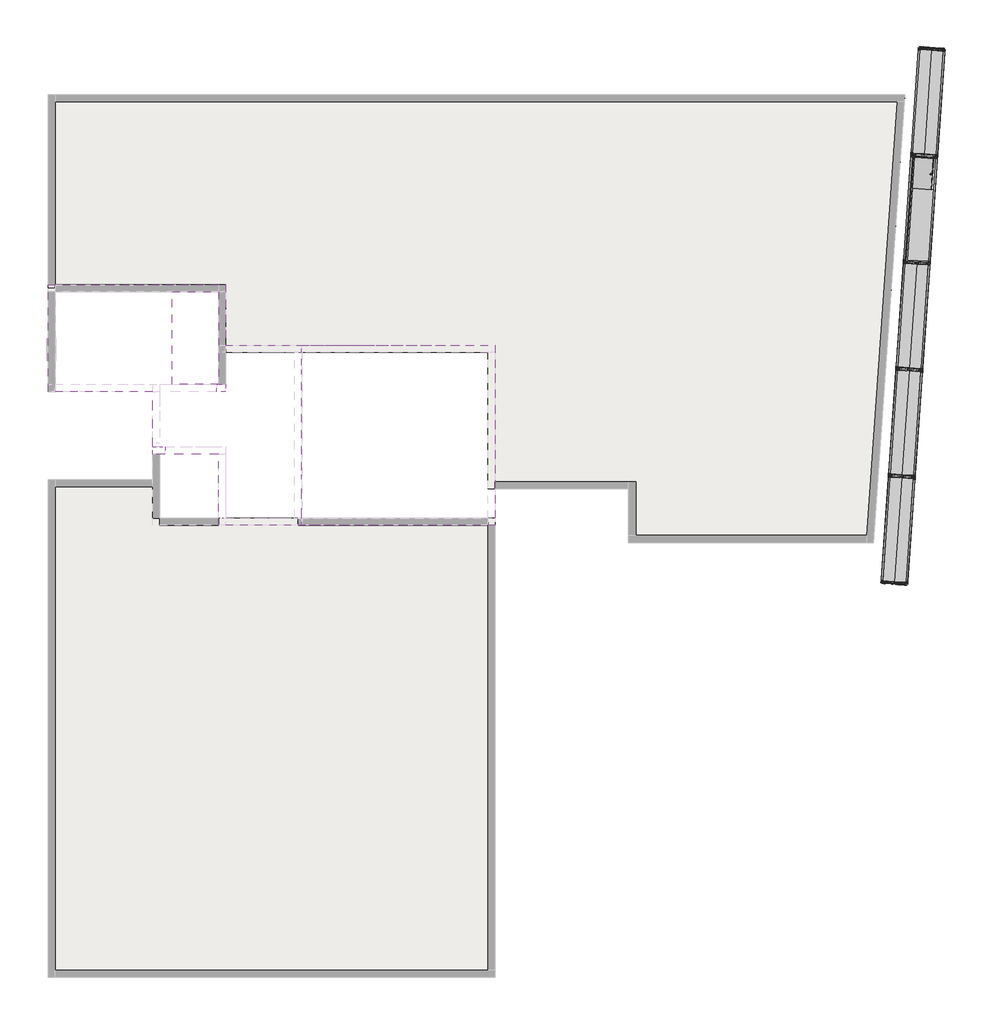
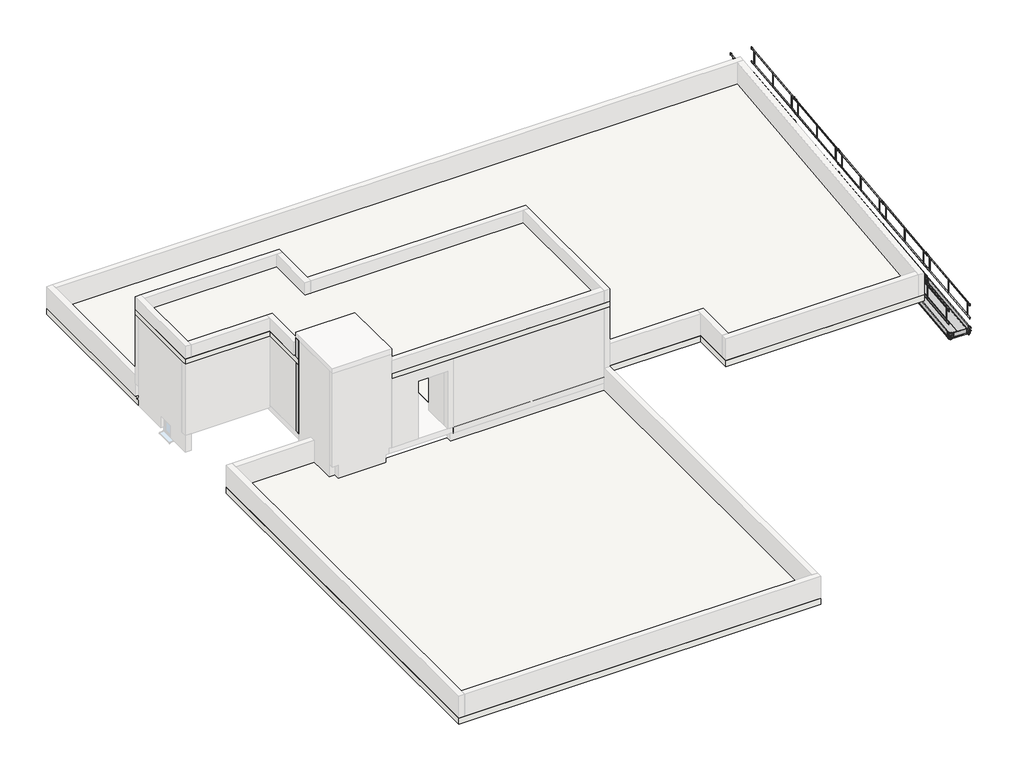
# One storey, part 2 of 2: 55 proxies, 5 slabs, 2 columns.
"""IFC4 building model written with IfcOpenShell, lengths in millimetres."""

from ifc_helpers import new_model, si_unit, frame, origin, place, context, project, spatial, polyline, outline, extrude, faceted_brep, transform, mapped, element, save
from components import generic_models_b6224320, generic_models_870fb608, generic_models_6026e95e, generic_models_c9bf4d4e, generic_models_8fe25d63, proxy_03_lisse_70_0da8a22d, proxy_04_lisse_3_m_913477d2

model = new_model("IFC4")

# Units and contexts
model_context = context("Model", 3, world=origin())
ifc_project = project(units=[si_unit("LENGTHUNIT", "METRE", prefix="MILLI")], contexts=[model_context])

# Site, building, storey
site = spatial("IfcSite", under=ifc_project)
building = spatial("IfcBuilding", under=site)
storey = spatial("IfcBuildingStorey", under=building, Name="08-Plateau 8", Elevation=14400.0)

# Proxies
placement = place(None, origin())
generic_models_shape = generic_models_b6224320(model_context)
element("IfcBuildingElementProxy", 1, Name="05-Plateau 3.00 m : JPA Plateau Galva", ObjectType="05-Plateau 3.00 m : JPA Plateau Galva", at=placement, inside=storey, context=model_context, shape_type="MappedRepresentation", body=[
    mapped(generic_models_shape, transform((17696.6144519, 11330.0091436, 14400.0), x_axis=(0.06975647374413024, 0.997564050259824, 0.0), y_axis=(-0.997564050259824, 0.06975647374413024, 0.0), z_axis=(0.0, 0.0, 1.0))),
])
element("IfcBuildingElementProxy", 2, Name="05-Plateau 3.00 m : JPA Plateau Galva", ObjectType="05-Plateau 3.00 m : JPA Plateau Galva", at=placement, inside=storey, context=model_context, shape_type="MappedRepresentation", body=[
    mapped(generic_models_shape, transform((18015.8349479, 11307.687072, 14400.0), x_axis=(0.06975647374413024, 0.997564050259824, 0.0), y_axis=(-0.997564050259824, 0.06975647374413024, 0.0), z_axis=(0.0, 0.0, 1.0))),
])
element("IfcBuildingElementProxy", 3, Name="05-Plateau 3.00 m : JPA Plateau Galva", ObjectType="05-Plateau 3.00 m : JPA Plateau Galva", at=placement, inside=storey, context=model_context, shape_type="MappedRepresentation", body=[
    mapped(generic_models_shape, transform((18115.6220564, 17322.0970558, 14400.0), x_axis=(0.06975647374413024, 0.997564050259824, 0.0), y_axis=(-0.997564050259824, 0.06975647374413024, 0.0), z_axis=(0.0, 0.0, 1.0))),
])
element("IfcBuildingElementProxy", 4, Name="05-Plateau 3.00 m : JPA Plateau Galva", ObjectType="05-Plateau 3.00 m : JPA Plateau Galva", at=placement, inside=storey, context=model_context, shape_type="MappedRepresentation", body=[
    mapped(generic_models_shape, transform((18434.8425525, 17299.7749842, 14400.0), x_axis=(0.06975647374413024, 0.997564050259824, 0.0), y_axis=(-0.997564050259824, 0.06975647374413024, 0.0), z_axis=(0.0, 0.0, 1.0))),
])
element("IfcBuildingElementProxy", 5, Name="05-Plateau 3.00 m : JPA Plateau Galva", ObjectType="05-Plateau 3.00 m : JPA Plateau Galva", at=placement, inside=storey, context=model_context, shape_type="MappedRepresentation", body=[
    mapped(generic_models_shape, transform((17487.1106496, 8333.9651875, 14400.0), x_axis=(0.06975647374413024, 0.997564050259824, 0.0), y_axis=(-0.997564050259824, 0.06975647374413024, 0.0), z_axis=(0.0, 0.0, 1.0))),
])
element("IfcBuildingElementProxy", 6, Name="05-Plateau 3.00 m : JPA Plateau Galva", ObjectType="05-Plateau 3.00 m : JPA Plateau Galva", at=placement, inside=storey, context=model_context, shape_type="MappedRepresentation", body=[
    mapped(generic_models_shape, transform((17806.3311456, 8311.6431159, 14400.0), x_axis=(0.06975647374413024, 0.997564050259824, 0.0), y_axis=(-0.997564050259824, 0.06975647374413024, 0.0), z_axis=(0.0, 0.0, 1.0))),
])
element("IfcBuildingElementProxy", 7, Name="05-Plateau 3.00 m : JPA Plateau Galva", ObjectType="05-Plateau 3.00 m : JPA Plateau Galva", at=placement, inside=storey, context=model_context, shape_type="MappedRepresentation", body=[
    mapped(generic_models_shape, transform((17277.6068473, 5337.9212313, 14400.0), x_axis=(0.06975647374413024, 0.997564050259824, 0.0), y_axis=(-0.997564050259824, 0.06975647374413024, 0.0), z_axis=(0.0, 0.0, 1.0))),
])
element("IfcBuildingElementProxy", 8, Name="05-Plateau 3.00 m : JPA Plateau Galva", ObjectType="05-Plateau 3.00 m : JPA Plateau Galva", at=placement, inside=storey, context=model_context, shape_type="MappedRepresentation", body=[
    mapped(generic_models_shape, transform((17596.8273433, 5315.5991597, 14400.0), x_axis=(0.06975647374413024, 0.997564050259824, 0.0), y_axis=(-0.997564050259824, 0.06975647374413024, 0.0), z_axis=(0.0, 0.0, 1.0))),
])
generic_models_2_shape = generic_models_870fb608(model_context)
element("IfcBuildingElementProxy", 9, Name="07-Plancher trappe : JPA Plancher trappe", ObjectType="07-Plancher trappe : JPA Plancher trappe", at=placement, inside=storey, context=model_context, shape_type="MappedRepresentation", body=[
    mapped(generic_models_2_shape, transform((18144.5472757, 17305.6793517, 14400.0), x_axis=(-0.06975647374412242, -0.9975640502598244, 0.0), y_axis=(0.9975640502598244, -0.06975647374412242, 0.0), z_axis=(0.0, 0.0, 1.0))),
])
generic_models_3_shape = generic_models_6026e95e(model_context)
element("IfcBuildingElementProxy", 10, Name="11-Plinthe 0.70 : JPA Plinthe 0.70", ObjectType="11-Plinthe 0.70 : JPA Plinthe 0.70", at=placement, inside=storey, context=model_context, shape_type="MappedRepresentation", body=[
    mapped(generic_models_3_shape, transform((17293.9283677, 5332.6495195, 14400.0), x_axis=(0.9970739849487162, -0.07644258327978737, 0.0), y_axis=(0.07644258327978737, 0.9970739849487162, 0.0), z_axis=(0.0, 0.0, 1.0))),
])
element("IfcBuildingElementProxy", 11, Name="11-Plinthe 0.70 : JPA Plinthe 0.70", ObjectType="11-Plinthe 0.70 : JPA Plinthe 0.70", at=placement, inside=storey, context=model_context, shape_type="MappedRepresentation", body=[
    mapped(generic_models_3_shape, transform((18342.1895888, 20323.4833915, 14400.0), x_axis=(0.9970739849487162, -0.07644258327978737, 0.0), y_axis=(0.07644258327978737, 0.9970739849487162, 0.0), z_axis=(0.0, 0.0, 1.0))),
])
generic_models_4_shape = generic_models_c9bf4d4e(model_context)
element("IfcBuildingElementProxy", 12, Name="12-Plinthe 3 m : JPA Plinthe 3 m", ObjectType="12-Plinthe 3 m : JPA Plinthe 3 m", at=placement, inside=storey, context=model_context, shape_type="MappedRepresentation", body=[
    mapped(generic_models_4_shape, transform((17696.788843, 11332.5030537, 14400.0), x_axis=(0.06975647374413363, 0.9975640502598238, 0.0), y_axis=(-0.9975640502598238, 0.06975647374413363, 0.0), z_axis=(0.0, 0.0, 1.0))),
])
element("IfcBuildingElementProxy", 13, Name="12-Plinthe 3 m : JPA Plinthe 3 m", ObjectType="12-Plinthe 3 m : JPA Plinthe 3 m", at=placement, inside=storey, context=model_context, shape_type="MappedRepresentation", body=[
    mapped(generic_models_4_shape, transform((18395.0836782, 11283.6735221, 14400.0), x_axis=(0.06975647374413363, 0.9975640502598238, 0.0), y_axis=(-0.9975640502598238, 0.06975647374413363, 0.0), z_axis=(0.0, 0.0, 1.0))),
])
element("IfcBuildingElementProxy", 14, Name="12-Plinthe 3 m : JPA Plinthe 3 m", ObjectType="12-Plinthe 3 m : JPA Plinthe 3 m", at=placement, inside=storey, context=model_context, shape_type="MappedRepresentation", body=[
    mapped(generic_models_4_shape, transform((17906.2926453, 14328.5470098, 14400.0), x_axis=(0.06975647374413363, 0.9975640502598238, 0.0), y_axis=(-0.9975640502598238, 0.06975647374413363, 0.0), z_axis=(0.0, 0.0, 1.0))),
])
element("IfcBuildingElementProxy", 15, Name="12-Plinthe 3 m : JPA Plinthe 3 m", ObjectType="12-Plinthe 3 m : JPA Plinthe 3 m", at=placement, inside=storey, context=model_context, shape_type="MappedRepresentation", body=[
    mapped(generic_models_4_shape, transform((18604.5874805, 14279.7174782, 14400.0), x_axis=(0.06975647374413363, 0.9975640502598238, 0.0), y_axis=(-0.9975640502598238, 0.06975647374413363, 0.0), z_axis=(0.0, 0.0, 1.0))),
])
element("IfcBuildingElementProxy", 16, Name="12-Plinthe 3 m : JPA Plinthe 3 m", ObjectType="12-Plinthe 3 m : JPA Plinthe 3 m", at=placement, inside=storey, context=model_context, shape_type="MappedRepresentation", body=[
    mapped(generic_models_4_shape, transform((18115.7964476, 17324.590966, 14400.0), x_axis=(0.06975647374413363, 0.9975640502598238, 0.0), y_axis=(-0.9975640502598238, 0.06975647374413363, 0.0), z_axis=(0.0, 0.0, 1.0))),
])
element("IfcBuildingElementProxy", 17, Name="12-Plinthe 3 m : JPA Plinthe 3 m", ObjectType="12-Plinthe 3 m : JPA Plinthe 3 m", at=placement, inside=storey, context=model_context, shape_type="MappedRepresentation", body=[
    mapped(generic_models_4_shape, transform((18814.0912828, 17275.7614343, 14400.0), x_axis=(0.06975647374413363, 0.9975640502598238, 0.0), y_axis=(-0.9975640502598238, 0.06975647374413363, 0.0), z_axis=(0.0, 0.0, 1.0))),
])
element("IfcBuildingElementProxy", 18, Name="12-Plinthe 3 m : JPA Plinthe 3 m", ObjectType="12-Plinthe 3 m : JPA Plinthe 3 m", at=placement, inside=storey, context=model_context, shape_type="MappedRepresentation", body=[
    mapped(generic_models_4_shape, transform((17487.2850407, 8336.4590976, 14400.0), x_axis=(0.06975647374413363, 0.9975640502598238, 0.0), y_axis=(-0.9975640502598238, 0.06975647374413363, 0.0), z_axis=(0.0, 0.0, 1.0))),
])
element("IfcBuildingElementProxy", 19, Name="12-Plinthe 3 m : JPA Plinthe 3 m", ObjectType="12-Plinthe 3 m : JPA Plinthe 3 m", at=placement, inside=storey, context=model_context, shape_type="MappedRepresentation", body=[
    mapped(generic_models_4_shape, transform((18185.5798759, 8287.629566, 14400.0), x_axis=(0.06975647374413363, 0.9975640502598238, 0.0), y_axis=(-0.9975640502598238, 0.06975647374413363, 0.0), z_axis=(0.0, 0.0, 1.0))),
])
element("IfcBuildingElementProxy", 20, Name="12-Plinthe 3 m : JPA Plinthe 3 m", ObjectType="12-Plinthe 3 m : JPA Plinthe 3 m", at=placement, inside=storey, context=model_context, shape_type="MappedRepresentation", body=[
    mapped(generic_models_4_shape, transform((17277.7812384, 5340.4151415, 14400.0), x_axis=(0.06975647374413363, 0.9975640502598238, 0.0), y_axis=(-0.9975640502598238, 0.06975647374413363, 0.0), z_axis=(0.0, 0.0, 1.0))),
])
element("IfcBuildingElementProxy", 21, Name="12-Plinthe 3 m : JPA Plinthe 3 m", ObjectType="12-Plinthe 3 m : JPA Plinthe 3 m", at=placement, inside=storey, context=model_context, shape_type="MappedRepresentation", body=[
    mapped(generic_models_4_shape, transform((17976.0760736, 5291.5856098, 14400.0), x_axis=(0.06975647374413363, 0.9975640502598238, 0.0), y_axis=(-0.9975640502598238, 0.06975647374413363, 0.0), z_axis=(0.0, 0.0, 1.0))),
])
generic_models_5_shape = generic_models_8fe25d63(model_context)
element("IfcBuildingElementProxy", 22, Name="14-Garde corps 300 : JPA Garde corps 300", ObjectType="14-Garde corps 300 : JPA Garde corps 300", at=placement, inside=storey, context=model_context, shape_type="MappedRepresentation", body=[
    mapped(generic_models_5_shape, transform((17696.7673576, 11331.7493383, 14400.0), x_axis=(0.06975647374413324, 0.9975640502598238, 0.0), y_axis=(-0.9975640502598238, 0.06975647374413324, 0.0), z_axis=(0.0, 0.0, 1.0))),
])
element("IfcBuildingElementProxy", 23, Name="14-Garde corps 300 : JPA Garde corps 300", ObjectType="14-Garde corps 300 : JPA Garde corps 300", at=placement, inside=storey, context=model_context, shape_type="MappedRepresentation", body=[
    mapped(generic_models_5_shape, transform((17906.2711598, 14327.7932944, 14400.0), x_axis=(0.06975647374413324, 0.9975640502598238, 0.0), y_axis=(-0.9975640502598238, 0.06975647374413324, 0.0), z_axis=(0.0, 0.0, 1.0))),
])
element("IfcBuildingElementProxy", 24, Name="14-Garde corps 300 : JPA Garde corps 300", ObjectType="14-Garde corps 300 : JPA Garde corps 300", at=placement, inside=storey, context=model_context, shape_type="MappedRepresentation", body=[
    mapped(generic_models_5_shape, transform((18115.7749621, 17323.8372506, 14400.0), x_axis=(0.06975647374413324, 0.9975640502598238, 0.0), y_axis=(-0.9975640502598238, 0.06975647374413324, 0.0), z_axis=(0.0, 0.0, 1.0))),
])
element("IfcBuildingElementProxy", 25, Name="14-Garde corps 300 : JPA Garde corps 300", ObjectType="14-Garde corps 300 : JPA Garde corps 300", at=placement, inside=storey, context=model_context, shape_type="MappedRepresentation", body=[
    mapped(generic_models_5_shape, transform((17487.2635553, 8335.7053822, 14400.0), x_axis=(0.06975647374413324, 0.9975640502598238, 0.0), y_axis=(-0.9975640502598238, 0.06975647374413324, 0.0), z_axis=(0.0, 0.0, 1.0))),
])
element("IfcBuildingElementProxy", 26, Name="14-Garde corps 300 : JPA Garde corps 300", ObjectType="14-Garde corps 300 : JPA Garde corps 300", at=placement, inside=storey, context=model_context, shape_type="MappedRepresentation", body=[
    mapped(generic_models_5_shape, transform((18814.2002275, 17273.8372506, 14400.0), x_axis=(0.06975647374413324, 0.9975640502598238, 0.0), y_axis=(-0.9975640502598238, 0.06975647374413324, 0.0), z_axis=(0.0, 0.0, 1.0))),
])
element("IfcBuildingElementProxy", 27, Name="14-Garde corps 300 : JPA Garde corps 300", ObjectType="14-Garde corps 300 : JPA Garde corps 300", at=placement, inside=storey, context=model_context, shape_type="MappedRepresentation", body=[
    mapped(generic_models_5_shape, transform((18604.2002275, 14273.8372506, 14400.0), x_axis=(0.06975647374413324, 0.9975640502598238, 0.0), y_axis=(-0.9975640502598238, 0.06975647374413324, 0.0), z_axis=(0.0, 0.0, 1.0))),
])
element("IfcBuildingElementProxy", 28, Name="14-Garde corps 300 : JPA Garde corps 300", ObjectType="14-Garde corps 300 : JPA Garde corps 300", at=placement, inside=storey, context=model_context, shape_type="MappedRepresentation", body=[
    mapped(generic_models_5_shape, transform((18394.6964252, 11277.7932944, 14400.0), x_axis=(0.06975647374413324, 0.9975640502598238, 0.0), y_axis=(-0.9975640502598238, 0.06975647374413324, 0.0), z_axis=(0.0, 0.0, 1.0))),
])
element("IfcBuildingElementProxy", 29, Name="14-Garde corps 300 : JPA Garde corps 300", ObjectType="14-Garde corps 300 : JPA Garde corps 300", at=placement, inside=storey, context=model_context, shape_type="MappedRepresentation", body=[
    mapped(generic_models_5_shape, transform((18185.1926229, 8281.7493383, 14400.0), x_axis=(0.06975647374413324, 0.9975640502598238, 0.0), y_axis=(-0.9975640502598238, 0.06975647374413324, 0.0), z_axis=(0.0, 0.0, 1.0))),
])
element("IfcBuildingElementProxy", 30, Name="14-Garde corps 300 : JPA Garde corps 300", ObjectType="14-Garde corps 300 : JPA Garde corps 300", at=placement, inside=storey, context=model_context, shape_type="MappedRepresentation", body=[
    mapped(generic_models_5_shape, transform((17277.759753, 5339.6614261, 14400.0), x_axis=(0.06975647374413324, 0.9975640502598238, 0.0), y_axis=(-0.9975640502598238, 0.06975647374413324, 0.0), z_axis=(0.0, 0.0, 1.0))),
])
element("IfcBuildingElementProxy", 31, Name="14-Garde corps 300 : JPA Garde corps 300", ObjectType="14-Garde corps 300 : JPA Garde corps 300", at=placement, inside=storey, context=model_context, shape_type="MappedRepresentation", body=[
    mapped(generic_models_5_shape, transform((17975.6888206, 5285.7053822, 14400.0), x_axis=(0.06975647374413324, 0.9975640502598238, 0.0), y_axis=(-0.9975640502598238, 0.06975647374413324, 0.0), z_axis=(0.0, 0.0, 1.0))),
])
proxy_03_lisse_70_shape = proxy_03_lisse_70_0da8a22d(model_context)
element("IfcBuildingElementProxy", 32, Name="03-Lisse 70 : JPA Lisse Galva", ObjectType="03-Lisse 70 : JPA Lisse Galva", at=placement, inside=storey, context=model_context, shape_type="MappedRepresentation", body=[
    mapped(proxy_03_lisse_70_shape, transform((17687.6637048, 11325.7592688, 14400.0), x_axis=(0.9975640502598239, -0.06975647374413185, 0.0), y_axis=(0.06975647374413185, 0.9975640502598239, 0.0), z_axis=(0.0, 0.0, 1.0))),
])
element("IfcBuildingElementProxy", 33, Name="03-Lisse 70 : JPA Lisse Galva", ObjectType="03-Lisse 70 : JPA Lisse Galva", at=placement, inside=storey, context=model_context, shape_type="MappedRepresentation", body=[
    mapped(proxy_03_lisse_70_shape, transform((17897.1675071, 14321.8032249, 14400.0), x_axis=(0.9975640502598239, -0.06975647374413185, 0.0), y_axis=(0.06975647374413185, 0.9975640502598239, 0.0), z_axis=(0.0, 0.0, 1.0))),
])
element("IfcBuildingElementProxy", 34, Name="03-Lisse 70 : JPA Lisse Galva", ObjectType="03-Lisse 70 : JPA Lisse Galva", at=placement, inside=storey, context=model_context, shape_type="MappedRepresentation", body=[
    mapped(proxy_03_lisse_70_shape, transform((18106.6713094, 17317.847181, 14400.0), x_axis=(0.9975640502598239, -0.06975647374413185, 0.0), y_axis=(0.06975647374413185, 0.9975640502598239, 0.0), z_axis=(0.0, 0.0, 1.0))),
])
element("IfcBuildingElementProxy", 35, Name="03-Lisse 70 : JPA Lisse Galva", ObjectType="03-Lisse 70 : JPA Lisse Galva", at=placement, inside=storey, context=model_context, shape_type="MappedRepresentation", body=[
    mapped(proxy_03_lisse_70_shape, transform((18311.1751117, 20323.8911372, 14400.0), x_axis=(0.9975640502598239, -0.06975647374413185, 0.0), y_axis=(0.06975647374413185, 0.9975640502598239, 0.0), z_axis=(0.0, 0.0, 1.0))),
])
element("IfcBuildingElementProxy", 36, Name="03-Lisse 70 : JPA Lisse Galva", ObjectType="03-Lisse 70 : JPA Lisse Galva", at=placement, inside=storey, context=model_context, shape_type="MappedRepresentation", body=[
    mapped(proxy_03_lisse_70_shape, transform((17478.1599025, 8329.7153127, 14400.0), x_axis=(0.9975640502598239, -0.06975647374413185, 0.0), y_axis=(0.06975647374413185, 0.9975640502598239, 0.0), z_axis=(0.0, 0.0, 1.0))),
])
element("IfcBuildingElementProxy", 37, Name="03-Lisse 70 : JPA Lisse Galva", ObjectType="03-Lisse 70 : JPA Lisse Galva", at=placement, inside=storey, context=model_context, shape_type="MappedRepresentation", body=[
    mapped(proxy_03_lisse_70_shape, transform((17478.1599025, 8329.7153127, 14400.0), x_axis=(0.9975640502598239, -0.06975647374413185, 0.0), y_axis=(0.06975647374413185, 0.9975640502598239, 0.0), z_axis=(0.0, 0.0, 1.0))),
])
element("IfcBuildingElementProxy", 38, Name="03-Lisse 70 : JPA Lisse Galva", ObjectType="03-Lisse 70 : JPA Lisse Galva", at=placement, inside=storey, context=model_context, shape_type="MappedRepresentation", body=[
    mapped(proxy_03_lisse_70_shape, transform((17268.6561002, 5333.6713565, 14400.0), x_axis=(0.9975640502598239, -0.06975647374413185, 0.0), y_axis=(0.06975647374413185, 0.9975640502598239, 0.0), z_axis=(0.0, 0.0, 1.0))),
])
proxy_04_lisse_3_m_shape = proxy_04_lisse_3_m_913477d2(model_context)
element("IfcBuildingElementProxy", 39, Name="04-Lisse 3 m : JPA Lisse Galva", ObjectType="04-Lisse 3 m : JPA Lisse Galva", at=placement, inside=storey, context=model_context, shape_type="MappedRepresentation", body=[
    mapped(proxy_04_lisse_3_m_shape, transform((18185.5798759, 8287.629566, 14400.0), x_axis=(0.06975647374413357, 0.9975640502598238, 0.0), y_axis=(-0.9975640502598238, 0.06975647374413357, 0.0), z_axis=(0.0, 0.0, 1.0))),
])
element("IfcBuildingElementProxy", 40, Name="04-Lisse 3 m : JPA Lisse Galva", ObjectType="04-Lisse 3 m : JPA Lisse Galva", at=placement, inside=storey, context=model_context, shape_type="MappedRepresentation", body=[
    mapped(proxy_04_lisse_3_m_shape, transform((18394.2117223, 11271.2039715, 14400.0), x_axis=(0.06975647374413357, 0.9975640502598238, 0.0), y_axis=(-0.9975640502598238, 0.06975647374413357, 0.0), z_axis=(0.0, 0.0, 1.0))),
])
element("IfcBuildingElementProxy", 41, Name="04-Lisse 3 m : JPA Lisse Galva", ObjectType="04-Lisse 3 m : JPA Lisse Galva", at=placement, inside=storey, context=model_context, shape_type="MappedRepresentation", body=[
    mapped(proxy_04_lisse_3_m_shape, transform((18604.1764114, 14273.838916, 14400.0), x_axis=(0.06975647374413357, 0.9975640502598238, 0.0), y_axis=(-0.9975640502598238, 0.06975647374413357, 0.0), z_axis=(0.0, 0.0, 1.0))),
])
element("IfcBuildingElementProxy", 42, Name="04-Lisse 3 m : JPA Lisse Galva", ObjectType="04-Lisse 3 m : JPA Lisse Galva", at=placement, inside=storey, context=model_context, shape_type="MappedRepresentation", body=[
    mapped(proxy_04_lisse_3_m_shape, transform((18813.5502996, 17268.0250134, 14400.0), x_axis=(0.06975647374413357, 0.9975640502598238, 0.0), y_axis=(-0.9975640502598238, 0.06975647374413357, 0.0), z_axis=(0.0, 0.0, 1.0))),
])
element("IfcBuildingElementProxy", 43, Name="04-Lisse 3 m : JPA Lisse Galva", ObjectType="04-Lisse 3 m : JPA Lisse Galva", at=placement, inside=storey, context=model_context, shape_type="MappedRepresentation", body=[
    mapped(proxy_04_lisse_3_m_shape, transform((17976.0760736, 5291.5856098, 14400.0), x_axis=(0.06975647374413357, 0.9975640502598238, 0.0), y_axis=(-0.9975640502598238, 0.06975647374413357, 0.0), z_axis=(0.0, 0.0, 1.0))),
])
element("IfcBuildingElementProxy", 44, Name="04-Lisse 3 m : JPA Lisse Galva", ObjectType="04-Lisse 3 m : JPA Lisse Galva", at=placement, inside=storey, context=model_context, shape_type="MappedRepresentation", body=[
    mapped(proxy_04_lisse_3_m_shape, transform((17487.2850407, 8336.4590976, 14400.0), x_axis=(0.06975647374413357, 0.9975640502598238, 0.0), y_axis=(-0.9975640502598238, 0.06975647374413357, 0.0), z_axis=(0.0, 0.0, 1.0))),
])
element("IfcBuildingElementProxy", 45, Name="04-Lisse 3 m : JPA Lisse Galva", ObjectType="04-Lisse 3 m : JPA Lisse Galva", at=placement, inside=storey, context=model_context, shape_type="MappedRepresentation", body=[
    mapped(proxy_04_lisse_3_m_shape, transform((17695.9168871, 11320.0335031, 14400.0), x_axis=(0.06975647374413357, 0.9975640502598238, 0.0), y_axis=(-0.9975640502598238, 0.06975647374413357, 0.0), z_axis=(0.0, 0.0, 1.0))),
])
element("IfcBuildingElementProxy", 46, Name="04-Lisse 3 m : JPA Lisse Galva", ObjectType="04-Lisse 3 m : JPA Lisse Galva", at=placement, inside=storey, context=model_context, shape_type="MappedRepresentation", body=[
    mapped(proxy_04_lisse_3_m_shape, transform((17905.8815762, 14322.6684476, 14400.0), x_axis=(0.06975647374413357, 0.9975640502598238, 0.0), y_axis=(-0.9975640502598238, 0.06975647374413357, 0.0), z_axis=(0.0, 0.0, 1.0))),
])
element("IfcBuildingElementProxy", 47, Name="04-Lisse 3 m : JPA Lisse Galva", ObjectType="04-Lisse 3 m : JPA Lisse Galva", at=placement, inside=storey, context=model_context, shape_type="MappedRepresentation", body=[
    mapped(proxy_04_lisse_3_m_shape, transform((18115.2554644, 17316.8545451, 14400.0), x_axis=(0.06975647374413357, 0.9975640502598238, 0.0), y_axis=(-0.9975640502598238, 0.06975647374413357, 0.0), z_axis=(0.0, 0.0, 1.0))),
])
element("IfcBuildingElementProxy", 48, Name="04-Lisse 3 m : JPA Lisse Galva", ObjectType="04-Lisse 3 m : JPA Lisse Galva", at=placement, inside=storey, context=model_context, shape_type="MappedRepresentation", body=[
    mapped(proxy_04_lisse_3_m_shape, transform((17277.7812384, 5340.4151415, 14400.0), x_axis=(0.06975647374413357, 0.9975640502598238, 0.0), y_axis=(-0.9975640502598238, 0.06975647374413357, 0.0), z_axis=(0.0, 0.0, 1.0))),
])
element("IfcBuildingElementProxy", 49, Name="04-Lisse 3 m : JPA Lisse Galva", ObjectType="04-Lisse 3 m : JPA Lisse Galva", at=placement, inside=storey, context=model_context, shape_type="MappedRepresentation", body=[
    mapped(proxy_04_lisse_3_m_shape, transform((17500.8765554, 8353.1677495, 14400.0), x_axis=(0.06975647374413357, 0.9975640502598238, 0.0), y_axis=(-0.9975640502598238, 0.06975647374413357, 0.0), z_axis=(0.0, 0.0, 1.0))),
])
element("IfcBuildingElementProxy", 50, Name="04-Lisse 3 m : JPA Lisse Galva", ObjectType="04-Lisse 3 m : JPA Lisse Galva", at=placement, inside=storey, context=model_context, shape_type="MappedRepresentation", body=[
    mapped(proxy_04_lisse_3_m_shape, transform((17709.5084018, 11336.742155, 14400.0), x_axis=(0.06975647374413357, 0.9975640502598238, 0.0), y_axis=(-0.9975640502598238, 0.06975647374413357, 0.0), z_axis=(0.0, 0.0, 1.0))),
])
element("IfcBuildingElementProxy", 51, Name="04-Lisse 3 m : JPA Lisse Galva", ObjectType="04-Lisse 3 m : JPA Lisse Galva", at=placement, inside=storey, context=model_context, shape_type="MappedRepresentation", body=[
    mapped(proxy_04_lisse_3_m_shape, transform((17919.4730909, 14339.3770995, 14400.0), x_axis=(0.06975647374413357, 0.9975640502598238, 0.0), y_axis=(-0.9975640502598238, 0.06975647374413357, 0.0), z_axis=(0.0, 0.0, 1.0))),
])
element("IfcBuildingElementProxy", 52, Name="04-Lisse 3 m : JPA Lisse Galva", ObjectType="04-Lisse 3 m : JPA Lisse Galva", at=placement, inside=storey, context=model_context, shape_type="MappedRepresentation", body=[
    mapped(proxy_04_lisse_3_m_shape, transform((18128.846979, 17333.563197, 14400.0), x_axis=(0.06975647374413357, 0.9975640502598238, 0.0), y_axis=(-0.9975640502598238, 0.06975647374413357, 0.0), z_axis=(0.0, 0.0, 1.0))),
])
element("IfcBuildingElementProxy", 53, Name="04-Lisse 3 m : JPA Lisse Galva", ObjectType="04-Lisse 3 m : JPA Lisse Galva", at=placement, inside=storey, context=model_context, shape_type="MappedRepresentation", body=[
    mapped(proxy_04_lisse_3_m_shape, transform((17291.3727531, 5357.1237934, 14400.0), x_axis=(0.06975647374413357, 0.9975640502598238, 0.0), y_axis=(-0.9975640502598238, 0.06975647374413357, 0.0), z_axis=(0.0, 0.0, 1.0))),
])
element("IfcBuildingElementProxy", 54, Name="04-Lisse 3 m : JPA Lisse Galva", ObjectType="04-Lisse 3 m : JPA Lisse Galva", at=placement, inside=storey, context=model_context, shape_type="MappedRepresentation", body=[
    mapped(proxy_04_lisse_3_m_shape, transform((18604.1764114, 14271.2936372, 13904.432796), x_axis=(0.06975647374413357, 0.9975640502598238, 0.0), y_axis=(-0.9975640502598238, 0.06975647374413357, 0.0), z_axis=(0.0, 0.0, 1.0))),
])
element("IfcBuildingElementProxy", 55, Name="04-Lisse 3 m : JPA Lisse Galva", ObjectType="04-Lisse 3 m : JPA Lisse Galva", at=placement, inside=storey, context=model_context, shape_type="MappedRepresentation", body=[
    mapped(proxy_04_lisse_3_m_shape, transform((17919.4730909, 14336.8318207, 13904.432796), x_axis=(0.06975647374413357, 0.9975640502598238, 0.0), y_axis=(-0.9975640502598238, 0.06975647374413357, 0.0), z_axis=(0.0, 0.0, 1.0))),
])

# Columns
element("IfcColumn", 56, ObjectType="Poteau béton - Rectangulaire : 200x250 mm", at=placement, inside=storey, context=model_context, shape_type="Brep", body=[
    faceted_brep([(-1377.0447796, 10879.8622276, 15850.0), (-1327.0447796, 10879.8622276, 15850.0), (-1127.0447796, 10879.8622276, 15850.0), (-1127.0447796, 10679.8622276, 15850.0), (-1377.0447796, 10679.8622276, 15850.0), (-1377.0447796, 10879.8622276, 18360.0), (-1327.0447796, 10879.8622276, 18360.0), (-1127.0447796, 10879.8622276, 18360.0), (-1377.0447796, 10879.8622276, 15860.0), (-1377.0447796, 10879.8622276, 17960.0), (-1127.0447796, 10679.8622276, 18360.0), (-1377.0447796, 10679.8622276, 18360.0), (-1377.0447796, 10679.8622276, 17960.0), (-1377.0447796, 10679.8622276, 15860.0)], [[[0, 1, 2, 3, 4]], [[5, 6, 7, 2, 1, 0, 8, 9]], [[7, 10, 3, 2]], [[10, 11, 12, 13, 4, 3]], [[11, 5, 9, 8, 0, 4, 13, 12]], [[5, 11, 10, 7, 6]]]),
])
element("IfcColumn", 57, ObjectType="Poteau béton - Rectangulaire : 200x360 mm", at=placement, inside=storey, context=model_context, shape_type="Brep", body=[
    faceted_brep([(-3177.0447796, 9129.8622276, 15850.0), (-2977.0447796, 9129.8622276, 15850.0), (-2817.0447796, 9129.8622276, 15850.0), (-2817.0447796, 8929.8622276, 15850.0), (-3177.0447796, 8929.8622276, 15850.0), (-2817.0447796, 9129.8622276, 18360.0), (-2977.0447796, 9129.8622276, 18360.0), (-3177.0447796, 9129.8622276, 18360.0), (-3177.0447796, 8929.8622276, 18360.0), (-2817.0447796, 8929.8622276, 18360.0), (-3177.0447796, 8929.8622276, 16070.0)], [[[0, 1, 2, 3, 4]], [[5, 6, 7, 8, 9]], [[2, 1, 0, 7, 6, 5]], [[3, 2, 5, 9]], [[4, 3, 9, 8, 10]], [[0, 4, 10, 8, 7]]]),
    faceted_brep([(-3177.0447796, 9129.8622276, 19260.0), (-2817.0447796, 9129.8622276, 19260.0), (-2817.0447796, 9129.8622276, 18560.0), (-3177.0447796, 9129.8622276, 18560.0), (-2817.0447796, 8929.8622276, 19260.0), (-2817.0447796, 8929.8622276, 18560.0), (-2977.0447796, 8929.8622276, 19260.0), (-3177.0447796, 8929.8622276, 19260.0), (-3177.0447796, 8929.8622276, 18560.0)], [[[0, 1, 2, 3]], [[1, 4, 5, 2]], [[4, 6, 7, 8, 5]], [[7, 0, 3, 8]], [[1, 0, 7, 6, 4]], [[3, 2, 5, 8]]]),
])

# Slabs
element("IfcSlab", 58, ObjectType="Plancher Coulé en place 22 cm", at=placement, inside=storey, context=model_context, shape_type="Brep", body=[
    faceted_brep([(6432.9552204, -5740.1377724, 15150.0), (-6107.0447796, -5740.1377724, 15150.0), (-6107.0447796, 8209.8622276, 15150.0), (-2977.0447796, 8209.8622276, 15150.0), (-2977.0447796, 7129.8622276, 15150.0), (-687.0447796, 7129.8622276, 15150.0), (812.9552204, 7129.8622276, 15150.0), (912.9552204, 7129.8622276, 15150.0), (1012.9552204, 7129.8622276, 15150.0), (6432.9552204, 7129.8622276, 15150.0), (6432.9552204, 6779.8622276, 15150.0), (6432.9552204, 5999.8622276, 15150.0), (6432.9552204, -5740.1377724, 15370.0), (6432.9552204, 7129.8622276, 15370.0), (6232.9552204, 7129.8622276, 15370.0), (912.9552204, 7129.8622276, 15370.0), (812.9552204, 7129.8622276, 15370.0), (-687.0447796, 7129.8622276, 15370.0), (-2977.0447796, 7129.8622276, 15370.0), (-2977.0447796, 8209.8622276, 15370.0), (-6107.0447796, 8209.8622276, 15370.0), (-6107.0447796, -5740.1377724, 15370.0)], [[[0, 1, 2, 3, 4, 5, 6, 7, 8, 9, 10, 11]], [[12, 13, 14, 15, 16, 17, 18, 19, 20, 21]], [[1, 0, 12, 21]], [[2, 1, 21, 20]], [[3, 2, 20, 19]], [[4, 3, 19, 18]], [[5, 4, 18, 17]], [[7, 6, 5, 17, 16, 15]], [[9, 8, 7, 15, 14, 13]], [[0, 11, 10, 9, 13, 12]]]),
])
element("IfcSlab", 59, ObjectType="Plancher Coulé en place 22 cm", at=placement, inside=storey, context=model_context, shape_type="Brep", body=[
    faceted_brep([(17041.777301, 6443.530828, 15150.0), (10173.5257924, 6443.530828, 15150.0), (10173.5257924, 7959.8622276, 15150.0), (6232.9552204, 7959.8622276, 15150.0), (6232.9552204, 9839.8622276, 15150.0), (6232.9552204, 11779.5762916, 15150.0), (6212.9552204, 11779.5762916, 15150.0), (1012.9552204, 11779.5762916, 15150.0), (812.9552204, 11779.5762916, 15150.0), (-1127.0447796, 11779.5762916, 15150.0), (-1127.0447796, 11979.5762916, 15150.0), (-1127.0447796, 13479.8622276, 15150.0), (-6107.0447796, 13479.8622276, 15150.0), (-6107.0447796, 18999.8622276, 15150.0), (6332.9552204, 18999.8622276, 15150.0), (17919.8015255, 18999.8622276, 15150.0), (17041.777301, 6443.530828, 15370.0), (17919.8015255, 18999.8622276, 15370.0), (6332.9552204, 18999.8622276, 15370.0), (-6107.0447796, 18999.8622276, 15370.0), (-6107.0447796, 13479.8622276, 15370.0), (-1127.0447796, 13479.8622276, 15370.0), (-1127.0447796, 11979.5762916, 15370.0), (-1127.0447796, 11779.5762916, 15370.0), (1012.9552204, 11779.5762916, 15370.0), (6212.9552204, 11779.5762916, 15370.0), (6232.9552204, 11779.5762916, 15370.0), (6232.9552204, 9839.8622276, 15370.0), (6232.9552204, 7959.8622276, 15370.0), (10173.5257924, 7959.8622276, 15370.0), (10173.5257924, 6443.530828, 15370.0)], [[[0, 1, 2, 3, 4, 5, 6, 7, 8, 9, 10, 11, 12, 13, 14, 15]], [[16, 17, 18, 19, 20, 21, 22, 23, 24, 25, 26, 27, 28, 29, 30]], [[1, 0, 16, 30]], [[2, 1, 30, 29]], [[3, 2, 29, 28]], [[4, 3, 28, 27]], [[5, 4, 27, 26]], [[6, 5, 26, 25]], [[9, 8, 7, 6, 25, 24, 23]], [[11, 10, 9, 23, 22, 21]], [[13, 12, 20, 19]], [[14, 13, 19, 18]], [[15, 14, 18, 17]], [[0, 15, 17, 16]], [[12, 11, 21, 20]]]),
])
element("IfcSlab", 60, ObjectType="Plancher Coulé en place 23 cm", at=placement, inside=storey, context=model_context, shape_type="Brep", body=[
    faceted_brep([(6432.9552204, 11979.8622276, 15620.0), (6432.9552204, 11179.7122276, 15620.0), (6432.9552204, 9839.8622276, 15620.0), (6432.9552204, 6929.8622276, 15620.0), (1008.9552204, 6929.8622276, 15620.0), (1008.9552204, 7129.8622276, 15620.0), (1008.9552204, 8227.4340998, 15620.0), (1008.9552204, 8477.4340998, 15620.0), (1008.9552204, 11167.4340998, 15620.0), (1008.9552204, 11417.4340998, 15620.0), (1008.9552204, 11779.5762916, 15620.0), (1008.9552204, 11779.8622276, 15620.0), (1008.9552204, 11979.5762916, 15620.0), (1008.9552204, 11979.8622276, 15620.0), (6432.9552204, 11979.8622276, 15850.0), (1008.9552204, 11979.8622276, 15850.0), (1008.9552204, 6929.8622276, 15850.0), (6432.9552204, 6929.8622276, 15850.0), (6432.9552204, 9839.8622276, 15850.0), (6432.9552204, 11179.7122276, 15850.0)], [[[0, 1, 2, 3, 4, 5, 6, 7, 8, 9, 10, 11, 12, 13]], [[14, 15, 16, 17, 18, 19]], [[3, 2, 1, 0, 14, 19, 18, 17]], [[4, 3, 17, 16]], [[13, 12, 11, 10, 9, 8, 7, 6, 5, 4, 16, 15]], [[0, 13, 15, 14]]]),
])
element("IfcSlab", 61, ObjectType="Plancher Coulé en place 20 cm", at=placement, inside=storey, context=model_context, shape_type="Brep", body=[
    faceted_brep([(6432.9552204, 6929.8622276, 18360.0), (-1327.0447796, 6929.8622276, 18360.0), (-1327.0447796, 8929.8622276, 18360.0), (-2817.0447796, 8929.8622276, 18360.0), (-3177.0447796, 8929.8622276, 18360.0), (-3177.0447796, 9129.8622276, 18360.0), (-3177.0447796, 10679.8622276, 18360.0), (-6107.0447796, 10679.8622276, 18360.0), (-6107.0447796, 13679.8622276, 18360.0), (-1127.0447796, 13679.8622276, 18360.0), (-1127.0447796, 11979.8622276, 18360.0), (6432.9552204, 11979.8622276, 18360.0), (6432.9552204, 6929.8622276, 18560.0), (6432.9552204, 11979.8622276, 18560.0), (-1127.0447796, 11979.8622276, 18560.0), (-1127.0447796, 13679.8622276, 18560.0), (-6107.0447796, 13679.8622276, 18560.0), (-6107.0447796, 10679.8622276, 18560.0), (-3177.0447796, 10679.8622276, 18560.0), (-3177.0447796, 9129.8622276, 18560.0), (-3177.0447796, 8929.8622276, 18560.0), (-2817.0447796, 8929.8622276, 18560.0), (-1327.0447796, 8929.8622276, 18560.0), (-1327.0447796, 6929.8622276, 18560.0)], [[[0, 1, 2, 3, 4, 5, 6, 7, 8, 9, 10, 11]], [[12, 13, 14, 15, 16, 17, 18, 19, 20, 21, 22, 23]], [[1, 0, 12, 23]], [[2, 1, 23, 22]], [[4, 3, 2, 22, 21, 20]], [[6, 5, 4, 20, 19, 18]], [[7, 6, 18, 17]], [[8, 7, 17, 16]], [[9, 8, 16, 15]], [[10, 9, 15, 14]], [[11, 10, 14, 13]], [[0, 11, 13, 12]]]),
])
element("IfcSlab", 62, ObjectType="Plancher Coulé en place 20 cm", at=placement, inside=storey, context=model_context, shape_type="SweptSolid", body=[
    extrude(outline(polyline([(-2628.7510491, 10879.8622276), (-2628.7510491, 13479.8622276), (-1327.0447796, 13479.8622276), (-1327.0447796, 10879.8622276), (-2628.7510491, 10879.8622276)])), frame((0.0, 0.0, 15660.0), z_axis=(0.0, 0.0, 1.0), x_axis=(1.0, 0.0, 0.0)), (0.0, 0.0, 1.0), 200.0),
])

save(model, "model.ifc")
